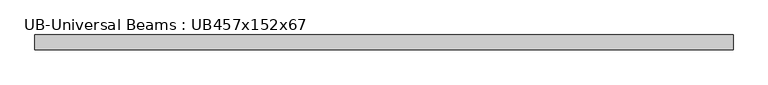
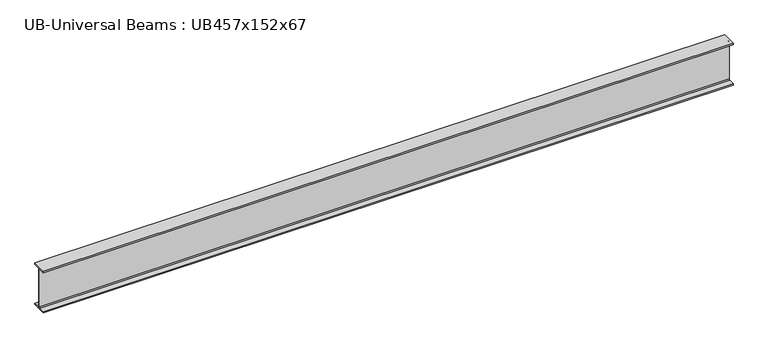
"""IFC4 building model written with IfcOpenShell, lengths in millimetres: beam geometry, UB-Universal Beams : UB457x152x67."""

import ifcopenshell
import ifcopenshell.guid

model = None  # the IFC model being written
_history = None  # IfcOwnerHistory: only IFC2X3 demands one
_inside = {}  # id of a spatial element -> (the spatial element, [elements in it])
_under = {}  # id of a project, library or spatial element -> (it, [spatial elements below it])
_declared = {}  # id of a project -> (the project, [libraries it declares])
_typed = {}  # id of a type object -> (the type object, [elements of that type])
_made_of = {}  # id of a material, layer set ... -> (it, [elements and type objects made of it])


def new_model(schema):
    """Start an empty IFC model of exactly this schema.

    Asked for "IFC4X3", IfcOpenShell would pick the latest addendum, in which some entities
    have other attributes; the version numbers below select the first issue.
    IFC2X3 requires an IfcOwnerHistory on every rooted entity: one is made here for all.
    """
    global model, _history
    if schema == "IFC4X3":
        model = ifcopenshell.file(schema_version=(4, 3, 0, 0))
    else:
        model = ifcopenshell.file(schema=schema)
    _inside.clear()
    _under.clear()
    _declared.clear()
    _typed.clear()
    _made_of.clear()
    _history = None
    if model.schema == "IFC2X3":
        org = make("IfcOrganization", Name="unknown")
        user = make(
            "IfcPersonAndOrganization",
            ThePerson=make("IfcPerson", FamilyName="unknown"),
            TheOrganization=org,
        )
        app = make(
            "IfcApplication",
            ApplicationDeveloper=org,
            Version="unknown",
            ApplicationFullName="unknown",
            ApplicationIdentifier="unknown",
        )
        _history = make(
            "IfcOwnerHistory",
            OwningUser=user,
            OwningApplication=app,
            ChangeAction="ADDED",
            CreationDate=0,
        )
    return model


def make(cls, **values):
    """One entity of the class cls with the attributes given. An attribute that is None is left unset."""
    return model.create_entity(
        cls, **{name: value for name, value in values.items() if value is not None}
    )


def rooted(cls, **values):
    """An entity with a GlobalId (a new one), such as an element, a storey or a relation."""
    return make(cls, GlobalId=ifcopenshell.guid.new(), OwnerHistory=_history, **values)


def si_unit(unit_type, name, prefix=None):
    """IfcSIUnit, for example si_unit("LENGTHUNIT", "METRE", prefix="MILLI")."""
    return make("IfcSIUnit", UnitType=unit_type, Prefix=prefix, Name=name)


def assignment(units):
    """IfcUnitAssignment: the units of a project."""
    return None if units is None else make("IfcUnitAssignment", Units=units)


def point(xyz):
    """IfcCartesianPoint."""
    return None if xyz is None else make("IfcCartesianPoint", Coordinates=xyz)


def direction(xyz):
    """IfcDirection."""
    return None if xyz is None else make("IfcDirection", DirectionRatios=xyz)


def frame(location, z_axis=None, x_axis=None):
    """IfcAxis2Placement3D, a coordinate frame: its origin and axes. An axis left out is left unset."""
    return make(
        "IfcAxis2Placement3D",
        Location=point(location),
        Axis=direction(z_axis),
        RefDirection=direction(x_axis),
    )


def frame_2d(location, x_axis=None):
    """IfcAxis2Placement2D, a coordinate frame in the plane: its origin and x axis."""
    return make(
        "IfcAxis2Placement2D", Location=point(location), RefDirection=direction(x_axis)
    )


def origin():
    """The frame at (0, 0, 0) with its axes left unset."""
    return frame((0.0, 0.0, 0.0))


def place(relative_to, where):
    """IfcLocalPlacement: puts the frame where relative to a parent placement (None: the world)."""
    return make(
        "IfcLocalPlacement", PlacementRelTo=relative_to, RelativePlacement=where
    )


def context(
    kind, dimensions, precision=None, world=None, true_north=None, identifier=None
):
    """IfcGeometricRepresentationContext, for example the 3D "Model" context."""
    return make(
        "IfcGeometricRepresentationContext",
        ContextIdentifier=identifier,
        ContextType=kind,
        CoordinateSpaceDimension=dimensions,
        Precision=precision,
        WorldCoordinateSystem=world,
        TrueNorth=true_north,
    )


def project(units=None, contexts=None):
    """IfcProject with its units and contexts."""
    return rooted(
        "IfcProject",
        Name="project",
        RepresentationContexts=contexts,
        UnitsInContext=assignment(units),
    )


def spatial(cls, under=None, at=None, **own):
    """A site, building, storey or space (cls), placed at a placement, below another one or the project."""
    s = rooted(cls, ObjectPlacement=at, **own)
    if under is not None:
        _under.setdefault(under.id(), (under, []))[1].append(s)
    return s


def polyline(points):
    """IfcPolyline through the points."""
    return make("IfcPolyline", Points=[point(p) for p in points])


def circle_curve(where, radius):
    """IfcCircle in the frame where."""
    return make("IfcCircle", Position=where, Radius=radius)


def trimmed(basis, trim1, trim2, sense, master):
    """IfcTrimmedCurve: the piece of a basis curve between two trims."""
    return make(
        "IfcTrimmedCurve",
        BasisCurve=basis,
        Trim1=trim1,
        Trim2=trim2,
        SenseAgreement=sense,
        MasterRepresentation=master,
    )


def segment(curve, same_sense, transition):
    """IfcCompositeCurveSegment."""
    return make(
        "IfcCompositeCurveSegment",
        Transition=transition,
        SameSense=same_sense,
        ParentCurve=curve,
    )


def composite_curve(segments, self_intersect=None):
    """IfcCompositeCurve: segments joined end to end."""
    return make("IfcCompositeCurve", Segments=segments, SelfIntersect=self_intersect)


def outline(outer, holes=None, kind="AREA"):
    """IfcArbitraryClosedProfileDef: a profile drawn as a closed curve; with holes, ...WithVoids."""
    if holes is None:
        return make("IfcArbitraryClosedProfileDef", ProfileType=kind, OuterCurve=outer)
    return make(
        "IfcArbitraryProfileDefWithVoids",
        ProfileType=kind,
        OuterCurve=outer,
        InnerCurves=holes,
    )


def extrude(swept, where, along, depth):
    """IfcExtrudedAreaSolid: the profile swept, set in the frame where, extruded along a direction by depth."""
    return make(
        "IfcExtrudedAreaSolid",
        SweptArea=swept,
        Position=where,
        ExtrudedDirection=direction(along),
        Depth=depth,
    )


def shape(context_of_items, identifier, shape_type, items):
    """IfcShapeRepresentation: the items that make up one representation, for example the "Body"."""
    return make(
        "IfcShapeRepresentation",
        ContextOfItems=context_of_items,
        RepresentationIdentifier=identifier,
        RepresentationType=shape_type,
        Items=items,
    )


def source(mapping_origin, context_of_items, identifier, shape_type, items):
    """IfcRepresentationMap: a shape defined once, which mapped items show again and again."""
    return make(
        "IfcRepresentationMap",
        MappingOrigin=mapping_origin,
        MappedRepresentation=shape(context_of_items, identifier, shape_type, items),
    )


def transform(
    local_origin,
    x_axis=None,
    y_axis=None,
    z_axis=None,
    scale=None,
    scale2=None,
    scale3=None,
    uniform=True,
):
    """IfcCartesianTransformationOperator3D, or its non-uniform kind. x_axis, y_axis, z_axis: its Axis1, 2, 3."""
    if uniform:
        return make(
            "IfcCartesianTransformationOperator3D",
            Axis1=direction(x_axis),
            Axis2=direction(y_axis),
            LocalOrigin=point(local_origin),
            Scale=scale,
            Axis3=direction(z_axis),
        )
    return make(
        "IfcCartesianTransformationOperator3DnonUniform",
        Axis1=direction(x_axis),
        Axis2=direction(y_axis),
        LocalOrigin=point(local_origin),
        Scale=scale,
        Axis3=direction(z_axis),
        Scale2=scale2,
        Scale3=scale3,
    )


def mapped(mapping_source, mapping_target):
    """IfcMappedItem: shows the shape of a source again, moved by a transform."""
    return make(
        "IfcMappedItem", MappingSource=mapping_source, MappingTarget=mapping_target
    )


def made_of(thing, what):
    """Note that an element or type object is made of a material, layer set ...; save() writes the relation."""
    if what is not None:
        _made_of.setdefault(what.id(), (what, []))[1].append(thing)
    return thing


def element(
    cls,
    number,
    at=None,
    inside=None,
    cuts=None,
    type_object=None,
    material=None,
    context=None,
    identifier="Body",
    shape_type=None,
    held_by="IfcProductDefinitionShape",
    body=None,
    shapes=None,
    **own,
):
    """One element of the class cls, such as IfcWall. Its Tag is "e" and its number.

    at: its placement. inside: the storey or other place that contains it. cuts: it is an
    opening in that element (IfcRelVoidsElement). A single representation is given by context,
    identifier, shape_type and body (its items); several are given by shapes. held_by: the class
    of the entity that holds the representations. save() writes the other relations.
    """
    e = rooted(cls, Tag="e%d" % number, ObjectPlacement=at, **own)
    if body is not None:
        shapes = [shape(context, identifier, shape_type, body)]
    if shapes is not None:
        e.Representation = make(held_by, Representations=shapes)
    if inside is not None:
        _inside.setdefault(inside.id(), (inside, []))[1].append(e)
    if cuts is not None:
        rooted(
            "IfcRelVoidsElement", RelatingBuildingElement=cuts, RelatedOpeningElement=e
        )
    if type_object is not None:
        _typed.setdefault(type_object.id(), (type_object, []))[1].append(e)
    return made_of(e, material)


def aggregate(whole, parts):
    """IfcRelAggregates: a whole, such as a stair, and the parts it consists of."""
    return rooted("IfcRelAggregates", RelatingObject=whole, RelatedObjects=parts)


def save(model, path):
    """Write the relations noted so far, then the file.

    IfcRelAggregates (storeys below a building ...), IfcRelContainedInSpatialStructure (elements
    in a storey), IfcRelDefinesByType, IfcRelAssociatesMaterial and IfcRelDeclares: one each for
    every whole, place, type object, material and project.
    """
    for whole, parts in _under.values():
        aggregate(whole, parts)
    for where, things in _inside.values():
        rooted(
            "IfcRelContainedInSpatialStructure",
            RelatedElements=things,
            RelatingStructure=where,
        )
    for kind, things in _typed.values():
        rooted("IfcRelDefinesByType", RelatedObjects=things, RelatingType=kind)
    for what, things in _made_of.values():
        rooted("IfcRelAssociatesMaterial", RelatedObjects=things, RelatingMaterial=what)
    for by, libraries in _declared.values():
        rooted("IfcRelDeclares", RelatingContext=by, RelatedDefinitions=libraries)
    model.write(path)


def ub_universal_beams_ub457x152x67_d2a0b01a(model_context):
    return source(origin(), model_context, "Body", "SweptSolid", [
        extrude(outline(composite_curve([segment(polyline([(76.9, -214.0), (76.9, -229.0), (-76.9, -229.0), (-76.9, -214.0), (-14.7, -214.0)]), True, "CONTINUOUS"), segment(trimmed(circle_curve(frame_2d((-14.7, -203.8)), 10.2), [point((-14.7, -214.0))], [point((-4.5, -203.8))], True, "CARTESIAN"), True, "CONTINUOUS"), segment(polyline([(-4.5, -203.8), (-4.5, 203.8)]), True, "CONTINUOUS"), segment(trimmed(circle_curve(frame_2d((-14.7, 203.8)), 10.2), [point((-4.5, 203.8))], [point((-14.7, 214.0))], True, "CARTESIAN"), True, "CONTINUOUS"), segment(polyline([(-14.7, 214.0), (-76.9, 214.0), (-76.9, 229.0), (76.9, 229.0), (76.9, 214.0), (14.7, 214.0)]), True, "CONTINUOUS"), segment(trimmed(circle_curve(frame_2d((14.7, 203.8)), 10.2), [point((14.7, 214.0))], [point((4.5, 203.8))], True, "CARTESIAN"), True, "CONTINUOUS"), segment(polyline([(4.5, 203.8), (4.5, -203.8)]), True, "CONTINUOUS"), segment(trimmed(circle_curve(frame_2d((14.7, -203.8)), 10.2), [point((4.5, -203.8))], [point((14.7, -214.0))], True, "CARTESIAN"), True, "CONTINUOUS"), segment(polyline([(14.7, -214.0), (76.9, -214.0)]), True, "CONTINUOUS")], self_intersect=False)), frame((-3541.7, 0.0, 0.0), z_axis=(1.0, 0.0, 0.0), x_axis=(0.0, 1.0, 0.0)), (0.0, 0.0, 1.0), 7179.0),
    ])


if __name__ == "__main__":
    model = new_model("IFC4")
    model_context = context("Model", 3, world=origin())
    ifc_project = project(units=[si_unit("LENGTHUNIT", "METRE", prefix="MILLI")], contexts=[model_context])
    site = spatial("IfcSite", under=ifc_project)
    building = spatial("IfcBuilding", under=site)
    placement = place(None, origin())
    ub_universal_beams_ub457x152x67_shape = ub_universal_beams_ub457x152x67_d2a0b01a(model_context)
    element("IfcBeam", 1, ObjectType="UB-Universal Beams : UB457x152x67", at=placement, inside=building, context=model_context, shape_type="MappedRepresentation", body=[
        mapped(ub_universal_beams_ub457x152x67_shape, transform((0.0, 0.0, 0.0), x_axis=(1.0, 0.0, 0.0), y_axis=(0.0, 1.0, 0.0), z_axis=(0.0, 0.0, 1.0))),
    ])
    save(model, "model.ifc")
